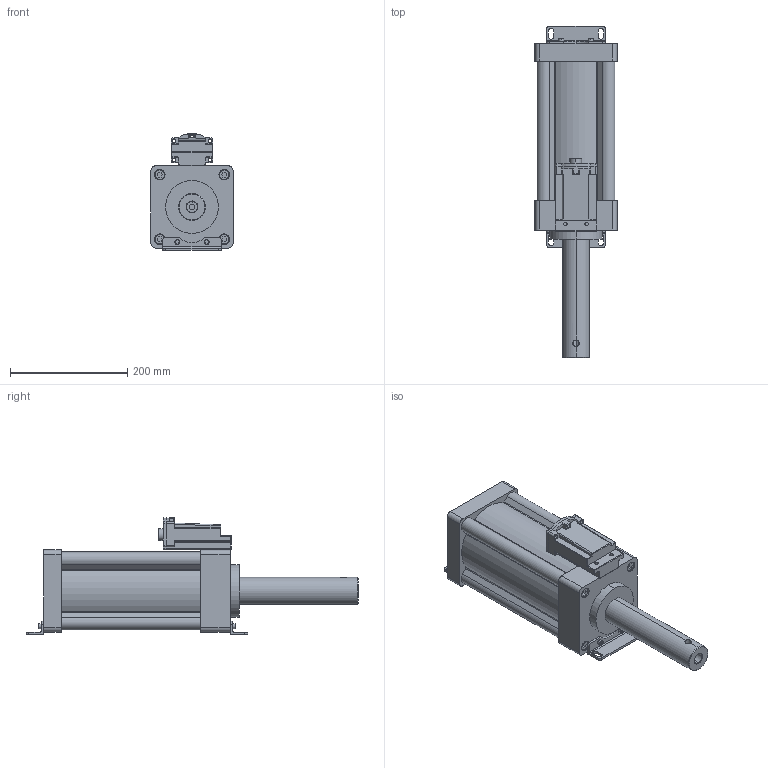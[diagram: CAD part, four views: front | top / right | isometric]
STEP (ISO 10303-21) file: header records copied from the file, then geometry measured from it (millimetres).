
FILE_DESCRIPTION (( 'STEP AP203' ), '1' );
FILE_NAME ('MHA1217N120.STEP', '2016-03-19T03:47:27', ( 'WIN' ), ( '' ), 'SwSTEP 2.0', 'SolidWorks 2014', '' );
FILE_SCHEMA (( 'CONFIG_CONTROL_DESIGN' ));
Length unit declared in the file: millimetre
Products named in the file (1): MHA1217N120
Bounding box: 140 x 566 x 198.97 mm (x, y, z)
Surface area: 509194.3 mm2 (no closed solid volume)
Topology: 0 solids, 6 shells, 454 faces, 1149 edges, 736 vertices
Faces by surface type: plane 219, cylinder 200, cone 20, sphere 8, torus 5, bspline 2
Entity records: 14246 total; most frequent: CARTESIAN_POINT 2963, DIRECTION 2418, ORIENTED_EDGE 2251, EDGE_CURVE 1137, AXIS2_PLACEMENT_3D 861, VERTEX_POINT 736, LINE 696, VECTOR 696
